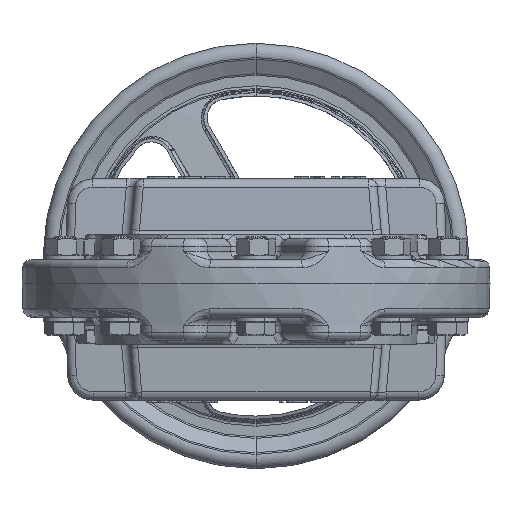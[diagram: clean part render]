
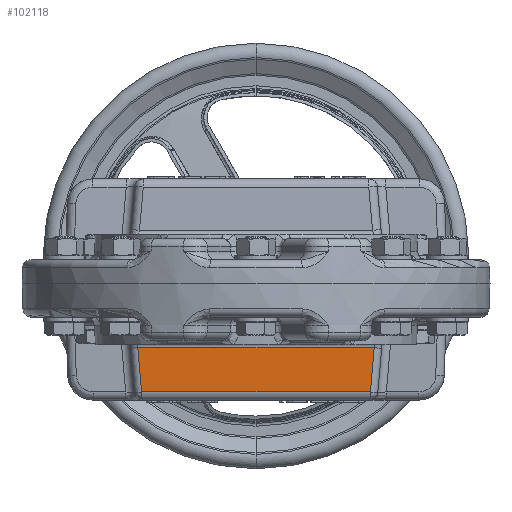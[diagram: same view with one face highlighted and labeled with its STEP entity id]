
A CAD part, front view. The second image highlights one B-rep face of the part: STEP entity #102118.
In plain terms, the highlighted planar face has unit normal (0, -0.999, -0.035).
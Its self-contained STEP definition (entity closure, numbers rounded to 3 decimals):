
#1510 = LINE ( 'NONE', #30317, #85056 ) ;
#2566 = PLANE ( 'NONE',  #13569 ) ;
#3636 = DIRECTION ( 'NONE',  ( 0., 0.035, -0.999 ) ) ;
#13569 = AXIS2_PLACEMENT_3D ( 'NONE', #103541, #53664, #3636 ) ;
#13615 = CARTESIAN_POINT ( 'NONE',  ( -55.589, 127.22, -30.378 ) ) ;
#24853 = EDGE_CURVE ( 'NONE', #74289, #78776, #90056, .T. ) ;
#26078 = VECTOR ( 'NONE', #31108, 1000. ) ;
#30317 = CARTESIAN_POINT ( 'NONE',  ( -53.462, 128.069, -54.696 ) ) ;
#31108 = DIRECTION ( 'NONE',  ( 0.087, -0.035, 0.996 ) ) ;
#32999 = ORIENTED_EDGE ( 'NONE', *, *, #24853, .T. ) ;
#34449 = LINE ( 'NONE', #66384, #78786 ) ;
#35959 = EDGE_CURVE ( 'NONE', #63521, #70053, #1510, .T. ) ;
#37247 = CARTESIAN_POINT ( 'NONE',  ( -53.773, 127.945, -51.14 ) ) ;
#38722 = DIRECTION ( 'NONE',  ( 0.087, 0.035, -0.996 ) ) ;
#41472 = VECTOR ( 'NONE', #88344, 1000. ) ;
#41565 = DIRECTION ( 'NONE',  ( 1., 0., 0. ) ) ;
#44120 = LINE ( 'NONE', #46755, #41472 ) ;
#46143 = CARTESIAN_POINT ( 'NONE',  ( 53.773, 127.945, -51.14 ) ) ;
#46755 = CARTESIAN_POINT ( 'NONE',  ( -153.637, 127.22, -30.378 ) ) ;
#46913 = FACE_OUTER_BOUND ( 'NONE', #48808, .T. ) ;
#48808 = EDGE_LOOP ( 'NONE', ( #62855, #79857, #32999, #107214 ) ) ;
#49616 = EDGE_CURVE ( 'NONE', #78776, #63521, #44120, .T. ) ;
#53664 = DIRECTION ( 'NONE',  ( 0., -0.999, -0.035 ) ) ;
#62855 = ORIENTED_EDGE ( 'NONE', *, *, #35959, .T. ) ;
#63521 = VERTEX_POINT ( 'NONE', #13615 ) ;
#66384 = CARTESIAN_POINT ( 'NONE',  ( -153.637, 127.945, -51.14 ) ) ;
#70053 = VERTEX_POINT ( 'NONE', #37247 ) ;
#74289 = VERTEX_POINT ( 'NONE', #46143 ) ;
#78776 = VERTEX_POINT ( 'NONE', #92200 ) ;
#78786 = VECTOR ( 'NONE', #41565, 1000. ) ;
#79857 = ORIENTED_EDGE ( 'NONE', *, *, #106458, .T. ) ;
#81070 = CARTESIAN_POINT ( 'NONE',  ( 55.911, 127.091, -26.696 ) ) ;
#85056 = VECTOR ( 'NONE', #38722, 1000. ) ;
#88344 = DIRECTION ( 'NONE',  ( -1., 0., 0. ) ) ;
#90056 = LINE ( 'NONE', #81070, #26078 ) ;
#92200 = CARTESIAN_POINT ( 'NONE',  ( 55.589, 127.22, -30.378 ) ) ;
#102118 = ADVANCED_FACE ( 'NONE', ( #46913 ), #2566, .T. ) ;
#103541 = CARTESIAN_POINT ( 'NONE',  ( -153.637, 128.079, -55. ) ) ;
#106458 = EDGE_CURVE ( 'NONE', #70053, #74289, #34449, .T. ) ;
#107214 = ORIENTED_EDGE ( 'NONE', *, *, #49616, .T. ) ;
